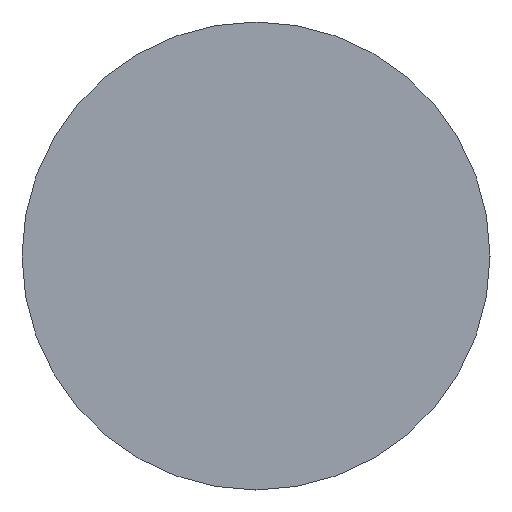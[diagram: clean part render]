
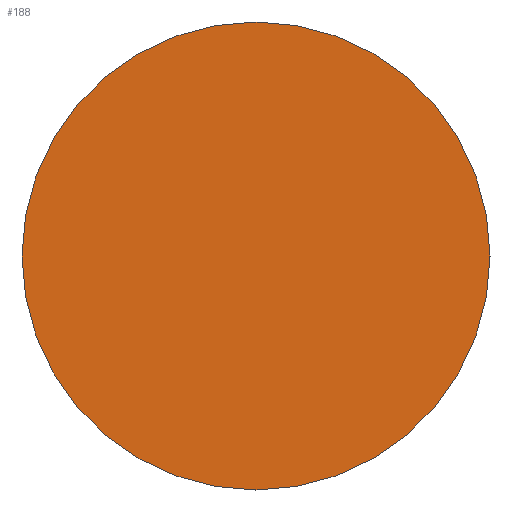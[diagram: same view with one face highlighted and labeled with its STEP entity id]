
A CAD part, left-side view. The second image highlights one B-rep face of the part: STEP entity #188.
In plain terms, the highlighted planar face has unit normal (-1, 0, 0).
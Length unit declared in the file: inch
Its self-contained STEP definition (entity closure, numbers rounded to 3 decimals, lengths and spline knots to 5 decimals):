
#78 = DIRECTION ( 'NONE',  ( 0., 0., 1. ) ) ;
#82 = EDGE_CURVE ( 'NONE', #495, #252, #300, .T. ) ;
#89 = CARTESIAN_POINT ( 'NONE',  ( -4., 0., 0. ) ) ;
#110 = CARTESIAN_POINT ( 'NONE',  ( -4., 0., -0.25 ) ) ;
#129 = FACE_OUTER_BOUND ( 'NONE', #155, .T. ) ;
#155 = EDGE_LOOP ( 'NONE', ( #350, #175 ) ) ;
#156 = DIRECTION ( 'NONE',  ( -1., 0., 0. ) ) ;
#160 = AXIS2_PLACEMENT_3D ( 'NONE', #385, #271, #299 ) ;
#175 = ORIENTED_EDGE ( 'NONE', *, *, #82, .T. ) ;
#188 = ADVANCED_FACE ( 'NONE', ( #129 ), #438, .F. ) ;
#190 = DIRECTION ( 'NONE',  ( 1., 0., 0. ) ) ;
#252 = VERTEX_POINT ( 'NONE', #388 ) ;
#263 = AXIS2_PLACEMENT_3D ( 'NONE', #89, #156, #78 ) ;
#271 = DIRECTION ( 'NONE',  ( -1., 0., 0. ) ) ;
#277 = DIRECTION ( 'NONE',  ( 0., 0., -1. ) ) ;
#299 = DIRECTION ( 'NONE',  ( 0., 0., 1. ) ) ;
#300 = CIRCLE ( 'NONE', #160, 0.25 ) ;
#324 = EDGE_CURVE ( 'NONE', #252, #495, #491, .T. ) ;
#350 = ORIENTED_EDGE ( 'NONE', *, *, #324, .T. ) ;
#385 = CARTESIAN_POINT ( 'NONE',  ( -4., 0., 0. ) ) ;
#388 = CARTESIAN_POINT ( 'NONE',  ( -4., 0., 0.25 ) ) ;
#438 = PLANE ( 'NONE',  #500 ) ;
#474 = CARTESIAN_POINT ( 'NONE',  ( -4., 0.25, 0. ) ) ;
#491 = CIRCLE ( 'NONE', #263, 0.25 ) ;
#495 = VERTEX_POINT ( 'NONE', #110 ) ;
#500 = AXIS2_PLACEMENT_3D ( 'NONE', #474, #190, #277 ) ;
